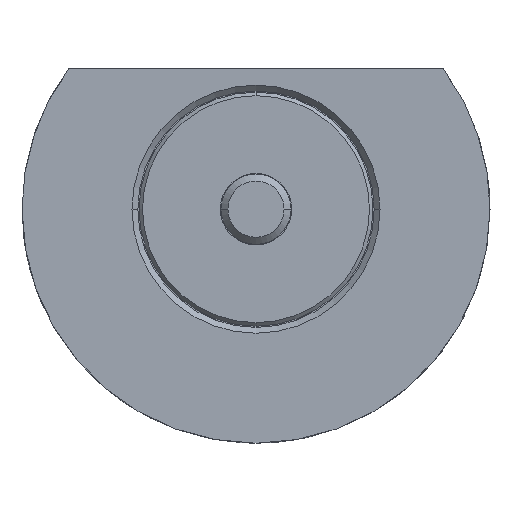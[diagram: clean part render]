
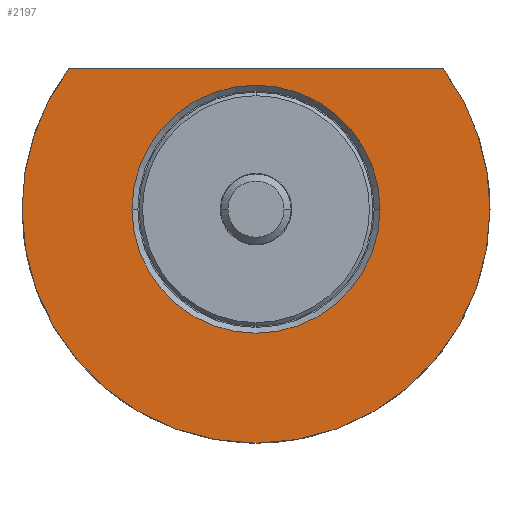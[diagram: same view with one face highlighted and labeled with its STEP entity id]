
A CAD part, front view. The second image highlights one B-rep face of the part: STEP entity #2197.
In plain terms, the highlighted planar face has unit normal (0, -1, 0).
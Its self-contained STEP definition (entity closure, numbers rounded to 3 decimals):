
#86 = DIRECTION ( 'NONE',  ( 0., 1., 0. ) ) ;
#105 = PLANE ( 'NONE',  #954 ) ;
#136 = DIRECTION ( 'NONE',  ( 0., 1., 0. ) ) ;
#137 = VERTEX_POINT ( 'NONE', #884 ) ;
#141 = EDGE_LOOP ( 'NONE', ( #1700, #1379, #608, #565 ) ) ;
#208 = CARTESIAN_POINT ( 'NONE',  ( 0., -10., 0. ) ) ;
#318 = CARTESIAN_POINT ( 'NONE',  ( -16.001, -10., 11.999 ) ) ;
#391 = EDGE_CURVE ( 'NONE', #501, #1403, #2153, .T. ) ;
#392 = CIRCLE ( 'NONE', #2556, 10.6 ) ;
#501 = VERTEX_POINT ( 'NONE', #546 ) ;
#510 = CARTESIAN_POINT ( 'NONE',  ( 10.6, -10., 0. ) ) ;
#512 = CARTESIAN_POINT ( 'NONE',  ( 0., -10., 0. ) ) ;
#533 = CARTESIAN_POINT ( 'NONE',  ( -10.6, -10., 11.999 ) ) ;
#538 = EDGE_CURVE ( 'NONE', #501, #720, #2300, .T. ) ;
#546 = CARTESIAN_POINT ( 'NONE',  ( 16.001, -10., 11.999 ) ) ;
#565 = ORIENTED_EDGE ( 'NONE', *, *, #1050, .F. ) ;
#608 = ORIENTED_EDGE ( 'NONE', *, *, #1859, .F. ) ;
#655 = CIRCLE ( 'NONE', #696, 10.6 ) ;
#669 = DIRECTION ( 'NONE',  ( -1., 0., 0. ) ) ;
#696 = AXIS2_PLACEMENT_3D ( 'NONE', #2154, #136, #945 ) ;
#712 = FACE_OUTER_BOUND ( 'NONE', #141, .T. ) ;
#719 = CARTESIAN_POINT ( 'NONE',  ( 0., -10., 0. ) ) ;
#720 = VERTEX_POINT ( 'NONE', #2131 ) ;
#737 = DIRECTION ( 'NONE',  ( 0., -1., 0. ) ) ;
#775 = EDGE_LOOP ( 'NONE', ( #926, #950 ) ) ;
#849 = EDGE_CURVE ( 'NONE', #1006, #2361, #392, .T. ) ;
#884 = CARTESIAN_POINT ( 'NONE',  ( -20., -10., 0. ) ) ;
#912 = CARTESIAN_POINT ( 'NONE',  ( -10.6, -10., 0. ) ) ;
#926 = ORIENTED_EDGE ( 'NONE', *, *, #849, .T. ) ;
#945 = DIRECTION ( 'NONE',  ( -1., 0., 0. ) ) ;
#950 = ORIENTED_EDGE ( 'NONE', *, *, #1555, .T. ) ;
#954 = AXIS2_PLACEMENT_3D ( 'NONE', #912, #737, #1509 ) ;
#1006 = VERTEX_POINT ( 'NONE', #510 ) ;
#1050 = EDGE_CURVE ( 'NONE', #720, #137, #2030, .T. ) ;
#1069 = CARTESIAN_POINT ( 'NONE',  ( 0., -10., 0. ) ) ;
#1111 = DIRECTION ( 'NONE',  ( -1., 0., 0. ) ) ;
#1184 = DIRECTION ( 'NONE',  ( -1., 0., 0. ) ) ;
#1270 = DIRECTION ( 'NONE',  ( -1., 0., 0. ) ) ;
#1379 = ORIENTED_EDGE ( 'NONE', *, *, #391, .T. ) ;
#1403 = VERTEX_POINT ( 'NONE', #318 ) ;
#1509 = DIRECTION ( 'NONE',  ( 1., 0., 0. ) ) ;
#1531 = AXIS2_PLACEMENT_3D ( 'NONE', #1069, #2491, #2095 ) ;
#1555 = EDGE_CURVE ( 'NONE', #2361, #1006, #655, .T. ) ;
#1666 = CARTESIAN_POINT ( 'NONE',  ( -10.6, -10., 0. ) ) ;
#1700 = ORIENTED_EDGE ( 'NONE', *, *, #538, .F. ) ;
#1859 = EDGE_CURVE ( 'NONE', #137, #1403, #2094, .T. ) ;
#1867 = AXIS2_PLACEMENT_3D ( 'NONE', #208, #2442, #1184 ) ;
#1913 = FACE_BOUND ( 'NONE', #775, .T. ) ;
#2030 = CIRCLE ( 'NONE', #2374, 20. ) ;
#2094 = CIRCLE ( 'NONE', #1531, 20. ) ;
#2095 = DIRECTION ( 'NONE',  ( -1., 0., 0. ) ) ;
#2131 = CARTESIAN_POINT ( 'NONE',  ( 20., -10., 0. ) ) ;
#2147 = DIRECTION ( 'NONE',  ( 0., 1., 0. ) ) ;
#2153 = LINE ( 'NONE', #533, #2384 ) ;
#2154 = CARTESIAN_POINT ( 'NONE',  ( 0., -10., 0. ) ) ;
#2197 = ADVANCED_FACE ( 'NONE', ( #1913, #712 ), #105, .T. ) ;
#2300 = CIRCLE ( 'NONE', #1867, 20. ) ;
#2361 = VERTEX_POINT ( 'NONE', #1666 ) ;
#2374 = AXIS2_PLACEMENT_3D ( 'NONE', #719, #86, #1270 ) ;
#2384 = VECTOR ( 'NONE', #1111, 1000. ) ;
#2442 = DIRECTION ( 'NONE',  ( 0., 1., 0. ) ) ;
#2491 = DIRECTION ( 'NONE',  ( 0., 1., 0. ) ) ;
#2556 = AXIS2_PLACEMENT_3D ( 'NONE', #512, #2147, #669 ) ;
